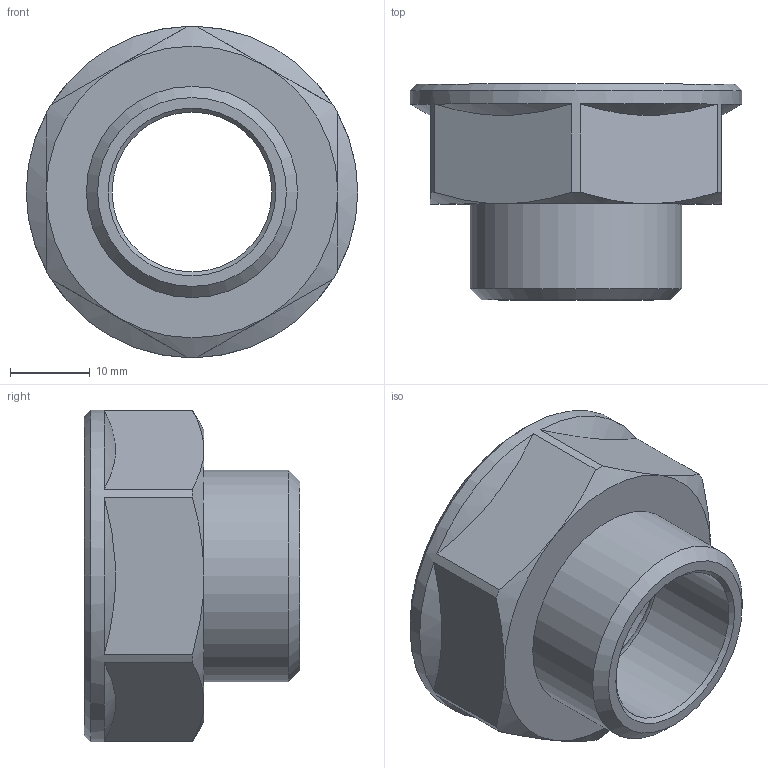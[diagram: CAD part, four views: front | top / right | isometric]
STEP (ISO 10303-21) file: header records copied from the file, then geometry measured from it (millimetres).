
FILE_DESCRIPTION(('STEP AP203'), '1');
FILE_NAME('ﾂﾐ.753138.009 - VTr.592.N.0605 ﾏ褞襄. G1xG3-4', '2024-07-08T09:36:50', ('Boss'), (''), 'C3D Converter', 'C3D Toolkit', '');
FILE_SCHEMA(('CONFIG_CONTROL_DESIGN'));
Length unit declared in the file: millimetre
Products named in the file (1): ВР.753138.009
Bounding box: 41.5 x 27 x 41.5 mm (x, y, z)
Volume: 10390.6 mm3; surface area: 6681.9 mm2
Topology: 1 solids, 1 shells, 31 faces, 70 edges, 43 vertices
Faces by surface type: cone 16, plane 10, cylinder 4, torus 1
Full cylindrical faces by diameter (mm): 20 x1, 26.441 x1, 30.292 x1, 41.5 x1
Entity records: 1380 total; most frequent: CARTESIAN_POINT 714, DIRECTION 134, ORIENTED_EDGE 118, AXIS2_PLACEMENT_3D 61, EDGE_CURVE 59, EDGE_LOOP 43, VERTEX_POINT 42, ADVANCED_FACE 30
